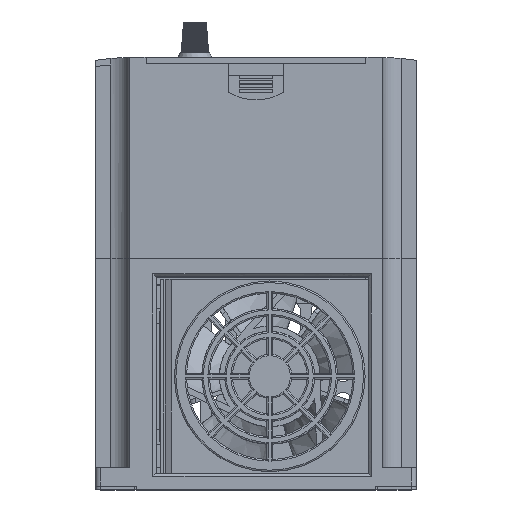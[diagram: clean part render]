
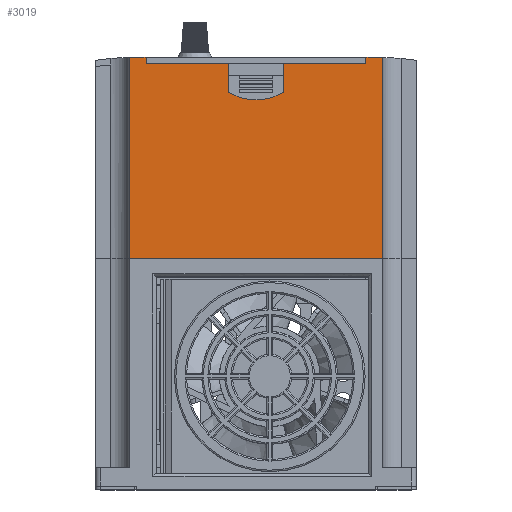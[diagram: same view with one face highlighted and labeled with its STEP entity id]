
A CAD part, top view. The second image highlights one B-rep face of the part: STEP entity #3019.
In plain terms, the highlighted planar face has unit normal (0, 0, 1) as drawn and (0, 0, -1) by its records, which use the part's own axes.
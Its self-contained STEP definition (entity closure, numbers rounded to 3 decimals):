
#3019=ADVANCED_FACE('',(#19082),#19084,.T.);
#19082=FACE_BOUND('',#19083,.T.);
#19083=EDGE_LOOP('',(#58278,#58279,#58280,#58281,#58282,#58283,#58284,#58285,#58286,
#58287,#58288,#58289,#58290,#58291));
#19084=PLANE('',#19085);
#19085=AXIS2_PLACEMENT_3D('',#19086,#19087,#19088);
#19086=CARTESIAN_POINT('',(41.5,0.,-80.75));
#19087=DIRECTION('',(0.,0.,-1.));
#19088=DIRECTION('',(-1.,0.,0.));
#58278=ORIENTED_EDGE('',*,*,#75287,.T.);
#58279=ORIENTED_EDGE('',*,*,#75288,.T.);
#58280=ORIENTED_EDGE('',*,*,#75289,.T.);
#58281=ORIENTED_EDGE('',*,*,#75290,.T.);
#58282=ORIENTED_EDGE('',*,*,#75291,.T.);
#58283=ORIENTED_EDGE('',*,*,#75292,.T.);
#58284=ORIENTED_EDGE('',*,*,#75293,.F.);
#58285=ORIENTED_EDGE('',*,*,#74982,.T.);
#58286=ORIENTED_EDGE('',*,*,#75286,.T.);
#58287=ORIENTED_EDGE('',*,*,#75294,.T.);
#58288=ORIENTED_EDGE('',*,*,#75295,.T.);
#58289=ORIENTED_EDGE('',*,*,#75296,.T.);
#58290=ORIENTED_EDGE('',*,*,#75297,.T.);
#58291=ORIENTED_EDGE('',*,*,#75298,.T.);
#74982=EDGE_CURVE('',#87161,#87159,#87162,.T.);
#75286=EDGE_CURVE('',#87159,#87734,#87736,.T.);
#75287=EDGE_CURVE('',#87737,#87738,#87739,.F.);
#75288=EDGE_CURVE('',#87738,#87740,#87741,.F.);
#75289=EDGE_CURVE('',#87740,#87742,#87743,.T.);
#75290=EDGE_CURVE('',#87742,#87744,#87745,.F.);
#75291=EDGE_CURVE('',#87744,#87746,#87747,.T.);
#75292=EDGE_CURVE('',#87746,#87748,#87749,.T.);
#75293=EDGE_CURVE('',#87161,#87748,#87750,.T.);
#75294=EDGE_CURVE('',#87734,#87751,#87752,.T.);
#75295=EDGE_CURVE('',#87751,#87753,#87754,.T.);
#75296=EDGE_CURVE('',#87753,#87755,#87756,.F.);
#75297=EDGE_CURVE('',#87755,#87757,#87758,.T.);
#75298=EDGE_CURVE('',#87757,#87737,#87759,.F.);
#87159=VERTEX_POINT('',#111428);
#87161=VERTEX_POINT('',#111432);
#87162=LINE('',#111433,#111434);
#87734=VERTEX_POINT('',#112813);
#87736=LINE('',#112818,#112819);
#87737=VERTEX_POINT('',#112821);
#87738=VERTEX_POINT('',#112822);
#87739=CIRCLE('',#112823,17.45);
#87740=VERTEX_POINT('',#112827);
#87741=LINE('',#112828,#112829);
#87742=VERTEX_POINT('',#112831);
#87743=LINE('',#112832,#112833);
#87744=VERTEX_POINT('',#112835);
#87745=LINE('',#112836,#112837);
#87746=VERTEX_POINT('',#112839);
#87747=LINE('',#112840,#112841);
#87748=VERTEX_POINT('',#112843);
#87749=(BOUNDED_CURVE()B_SPLINE_CURVE(3,
(#112844,#112845,#112846,#112847),
.UNSPECIFIED.,.F.,.F.)B_SPLINE_CURVE_WITH_KNOTS((4,4),
(0.,1.),
.UNSPECIFIED.)CURVE()GEOMETRIC_REPRESENTATION_ITEM()RATIONAL_B_SPLINE_CURVE((1.,
1.,1.,1.))REPRESENTATION_ITEM(''));
#87750=LINE('',#112848,#112849);
#87751=VERTEX_POINT('',#112851);
#87752=(BOUNDED_CURVE()B_SPLINE_CURVE(3,
(#112852,#112853,#112854,#112855),
.UNSPECIFIED.,.F.,.F.)B_SPLINE_CURVE_WITH_KNOTS((4,4),
(0.,1.),
.UNSPECIFIED.)CURVE()GEOMETRIC_REPRESENTATION_ITEM()RATIONAL_B_SPLINE_CURVE((1.,
1.,1.,1.))REPRESENTATION_ITEM(''));
#87753=VERTEX_POINT('',#112856);
#87754=LINE('',#112857,#112858);
#87755=VERTEX_POINT('',#112860);
#87756=LINE('',#112861,#112862);
#87757=VERTEX_POINT('',#112864);
#87758=LINE('',#112865,#112866);
#87759=LINE('',#112868,#112869);
#111428=CARTESIAN_POINT('',(-41.5,0.,-80.75));
#111432=CARTESIAN_POINT('',(41.5,0.,-80.75));
#111433=CARTESIAN_POINT('',(41.5,0.,-80.75));
#111434=VECTOR('',#111435,1.);
#111435=DIRECTION('',(-1.,0.,0.));
#112813=CARTESIAN_POINT('',(-41.5,65.953,-80.75));
#112818=CARTESIAN_POINT('',(-41.5,0.,-80.75));
#112819=VECTOR('',#112820,1.);
#112820=DIRECTION('',(0.,1.,0.));
#112821=CARTESIAN_POINT('',(-9.,54.5,-80.75));
#112822=CARTESIAN_POINT('',(9.,54.5,-80.75));
#112823=AXIS2_PLACEMENT_3D('',#112824,#112825,#112826);
#112824=CARTESIAN_POINT('',(0.,69.45,-80.75));
#112825=DIRECTION('',(0.,0.,-1.));
#112826=DIRECTION('',(0.516,-0.857,0.));
#112827=CARTESIAN_POINT('',(9.,64.,-80.75));
#112828=CARTESIAN_POINT('',(9.,64.,-80.75));
#112829=VECTOR('',#112830,1.);
#112830=DIRECTION('',(0.,-1.,0.));
#112831=CARTESIAN_POINT('',(36.,64.,-80.75));
#112832=CARTESIAN_POINT('',(9.,64.,-80.75));
#112833=VECTOR('',#112834,1.);
#112834=DIRECTION('',(1.,0.,0.));
#112835=CARTESIAN_POINT('',(36.,66.,-80.75));
#112836=CARTESIAN_POINT('',(36.,66.,-80.75));
#112837=VECTOR('',#112838,1.);
#112838=DIRECTION('',(0.,-1.,0.));
#112839=CARTESIAN_POINT('',(38.444,66.,-80.75));
#112840=CARTESIAN_POINT('',(36.,66.,-80.75));
#112841=VECTOR('',#112842,1.);
#112842=DIRECTION('',(1.,0.,0.));
#112843=CARTESIAN_POINT('',(41.5,65.953,-80.75));
#112844=CARTESIAN_POINT('',(38.444,66.,-80.75));
#112845=CARTESIAN_POINT('',(39.463,66.,-80.75));
#112846=CARTESIAN_POINT('',(40.482,65.984,-80.75));
#112847=CARTESIAN_POINT('',(41.5,65.953,-80.75));
#112848=CARTESIAN_POINT('',(41.5,0.,-80.75));
#112849=VECTOR('',#112850,1.);
#112850=DIRECTION('',(0.,1.,0.));
#112851=CARTESIAN_POINT('',(-38.443,66.,-80.75));
#112852=CARTESIAN_POINT('',(-41.5,65.953,-80.75));
#112853=CARTESIAN_POINT('',(-40.481,65.984,-80.75));
#112854=CARTESIAN_POINT('',(-39.462,66.,-80.75));
#112855=CARTESIAN_POINT('',(-38.443,66.,-80.75));
#112856=CARTESIAN_POINT('',(-36.,66.,-80.75));
#112857=CARTESIAN_POINT('',(-38.443,66.,-80.75));
#112858=VECTOR('',#112859,1.);
#112859=DIRECTION('',(1.,0.,0.));
#112860=CARTESIAN_POINT('',(-36.,64.,-80.75));
#112861=CARTESIAN_POINT('',(-36.,64.,-80.75));
#112862=VECTOR('',#112863,1.);
#112863=DIRECTION('',(0.,1.,0.));
#112864=CARTESIAN_POINT('',(-9.,64.,-80.75));
#112865=CARTESIAN_POINT('',(-36.,64.,-80.75));
#112866=VECTOR('',#112867,1.);
#112867=DIRECTION('',(1.,0.,0.));
#112868=CARTESIAN_POINT('',(-9.,54.5,-80.75));
#112869=VECTOR('',#112870,1.);
#112870=DIRECTION('',(0.,1.,0.));
